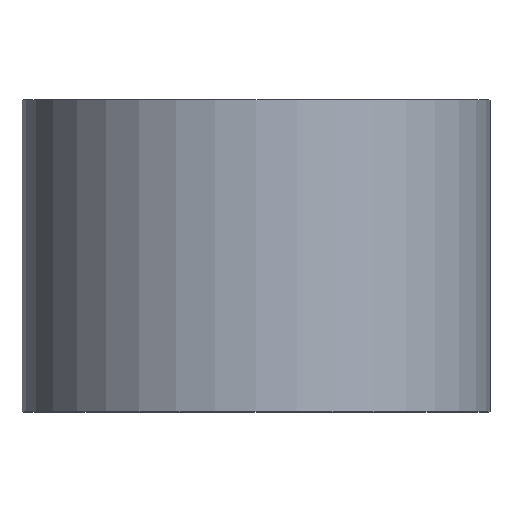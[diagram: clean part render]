
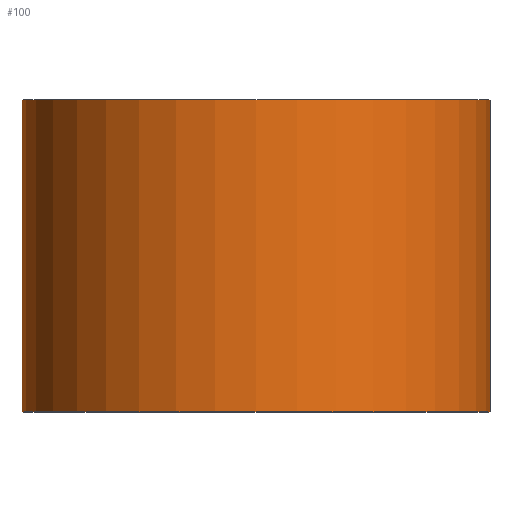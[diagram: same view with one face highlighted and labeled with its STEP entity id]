
A CAD part, top view. The second image highlights one B-rep face of the part: STEP entity #100.
In plain terms, the highlighted cylindrical face has radius 9 mm (diameter 18 mm), a partial arc.
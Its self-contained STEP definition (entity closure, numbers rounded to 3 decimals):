
#2 = EDGE_LOOP ( 'NONE', ( #5, #51, #16, #237 ) ) ;
#5 = ORIENTED_EDGE ( 'NONE', *, *, #11, .T. ) ;
#11 = EDGE_CURVE ( 'NONE', #280, #125, #154, .T. ) ;
#13 = CARTESIAN_POINT ( 'NONE',  ( 0., 0., 0. ) ) ;
#15 = DIRECTION ( 'NONE',  ( -1., 0., 0. ) ) ;
#16 = ORIENTED_EDGE ( 'NONE', *, *, #132, .F. ) ;
#19 = FACE_OUTER_BOUND ( 'NONE', #2, .T. ) ;
#20 = DIRECTION ( 'NONE',  ( -1., 0., 0. ) ) ;
#25 = LINE ( 'NONE', #135, #92 ) ;
#51 = ORIENTED_EDGE ( 'NONE', *, *, #180, .T. ) ;
#87 = DIRECTION ( 'NONE',  ( 0., 1., 0. ) ) ;
#92 = VECTOR ( 'NONE', #202, 1000. ) ;
#100 = ADVANCED_FACE ( 'NONE', ( #19 ), #170, .T. ) ;
#108 = LINE ( 'NONE', #233, #287 ) ;
#119 = AXIS2_PLACEMENT_3D ( 'NONE', #247, #87, #15 ) ;
#125 = VERTEX_POINT ( 'NONE', #157 ) ;
#132 = EDGE_CURVE ( 'NONE', #175, #257, #197, .T. ) ;
#135 = CARTESIAN_POINT ( 'NONE',  ( 9., 0., 0. ) ) ;
#154 = CIRCLE ( 'NONE', #256, 9. ) ;
#157 = CARTESIAN_POINT ( 'NONE',  ( 9., 0., 0. ) ) ;
#170 = CYLINDRICAL_SURFACE ( 'NONE', #201, 9. ) ;
#175 = VERTEX_POINT ( 'NONE', #207 ) ;
#177 = DIRECTION ( 'NONE',  ( -1., 0., 0. ) ) ;
#179 = DIRECTION ( 'NONE',  ( 0., 1., 0. ) ) ;
#180 = EDGE_CURVE ( 'NONE', #125, #257, #25, .T. ) ;
#197 = CIRCLE ( 'NONE', #119, 9. ) ;
#201 = AXIS2_PLACEMENT_3D ( 'NONE', #204, #179, #20 ) ;
#202 = DIRECTION ( 'NONE',  ( 0., 1., 0. ) ) ;
#204 = CARTESIAN_POINT ( 'NONE',  ( 0., 0., 0. ) ) ;
#207 = CARTESIAN_POINT ( 'NONE',  ( -9., 12., 0. ) ) ;
#212 = DIRECTION ( 'NONE',  ( 0., 1., 0. ) ) ;
#220 = DIRECTION ( 'NONE',  ( 0., 1., 0. ) ) ;
#232 = CARTESIAN_POINT ( 'NONE',  ( 9., 12., 0. ) ) ;
#233 = CARTESIAN_POINT ( 'NONE',  ( -9., 0., 0. ) ) ;
#237 = ORIENTED_EDGE ( 'NONE', *, *, #260, .F. ) ;
#247 = CARTESIAN_POINT ( 'NONE',  ( 0., 12., 0. ) ) ;
#256 = AXIS2_PLACEMENT_3D ( 'NONE', #13, #220, #177 ) ;
#257 = VERTEX_POINT ( 'NONE', #232 ) ;
#260 = EDGE_CURVE ( 'NONE', #280, #175, #108, .T. ) ;
#279 = CARTESIAN_POINT ( 'NONE',  ( -9., 0., 0. ) ) ;
#280 = VERTEX_POINT ( 'NONE', #279 ) ;
#287 = VECTOR ( 'NONE', #212, 1000. ) ;
